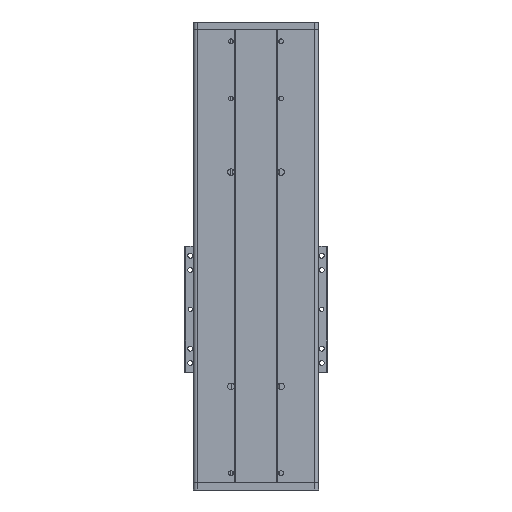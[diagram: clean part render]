
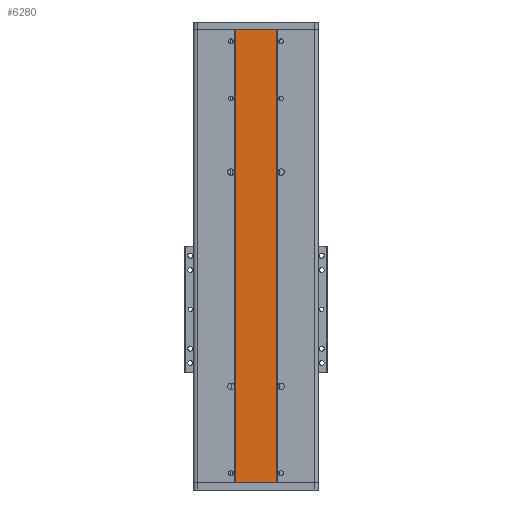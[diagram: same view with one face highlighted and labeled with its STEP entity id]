
A CAD part, front view. The second image highlights one B-rep face of the part: STEP entity #6280.
In plain terms, the highlighted planar face has unit normal (0, -1, 0).
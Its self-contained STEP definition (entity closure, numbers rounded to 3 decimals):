
#4207 = CARTESIAN_POINT ( 'NONE',  ( 58.27, -85.314, 635. ) ) ;
#4356 = CARTESIAN_POINT ( 'NONE',  ( 58.27, -85.314, -1245. ) ) ;
#6280 = ADVANCED_FACE ( 'NONE', ( #11978 ), #33856, .F. ) ;
#6749 = EDGE_CURVE ( 'NONE', #32931, #14445, #40188, .T. ) ;
#7474 = EDGE_CURVE ( 'NONE', #14445, #25032, #36184, .T. ) ;
#7497 = DIRECTION ( 'NONE',  ( 0., 0., 1. ) ) ;
#8635 = DIRECTION ( 'NONE',  ( 0., 1., 0. ) ) ;
#11347 = ORIENTED_EDGE ( 'NONE', *, *, #7474, .T. ) ;
#11978 = FACE_OUTER_BOUND ( 'NONE', #18731, .T. ) ;
#13543 = CARTESIAN_POINT ( 'NONE',  ( 0., -85.314, 0. ) ) ;
#14445 = VERTEX_POINT ( 'NONE', #4207 ) ;
#14585 = CARTESIAN_POINT ( 'NONE',  ( 1.27, -85.314, -1245. ) ) ;
#15776 = LINE ( 'NONE', #14585, #31628 ) ;
#18731 = EDGE_LOOP ( 'NONE', ( #28794, #11347, #26296, #19538 ) ) ;
#19538 = ORIENTED_EDGE ( 'NONE', *, *, #21689, .F. ) ;
#21184 = CARTESIAN_POINT ( 'NONE',  ( 1.27, -85.314, 635. ) ) ;
#21689 = EDGE_CURVE ( 'NONE', #32931, #38658, #29553, .T. ) ;
#23115 = DIRECTION ( 'NONE',  ( -1., 0., 0. ) ) ;
#24998 = CARTESIAN_POINT ( 'NONE',  ( 1.27, -85.314, 635. ) ) ;
#25032 = VERTEX_POINT ( 'NONE', #24998 ) ;
#26296 = ORIENTED_EDGE ( 'NONE', *, *, #27931, .F. ) ;
#26818 = VECTOR ( 'NONE', #36960, 1000. ) ;
#27931 = EDGE_CURVE ( 'NONE', #38658, #25032, #15776, .T. ) ;
#28366 = CARTESIAN_POINT ( 'NONE',  ( 1.27, -85.314, 0. ) ) ;
#28794 = ORIENTED_EDGE ( 'NONE', *, *, #6749, .T. ) ;
#29553 = LINE ( 'NONE', #13543, #36968 ) ;
#30834 = DIRECTION ( 'NONE',  ( 0., 0., 1. ) ) ;
#31013 = AXIS2_PLACEMENT_3D ( 'NONE', #40243, #8635, #30834 ) ;
#31628 = VECTOR ( 'NONE', #39929, 1000. ) ;
#32931 = VERTEX_POINT ( 'NONE', #33844 ) ;
#33844 = CARTESIAN_POINT ( 'NONE',  ( 58.27, -85.314, 0. ) ) ;
#33856 = PLANE ( 'NONE',  #31013 ) ;
#36184 = LINE ( 'NONE', #21184, #26818 ) ;
#36960 = DIRECTION ( 'NONE',  ( -1., 0., 0. ) ) ;
#36968 = VECTOR ( 'NONE', #23115, 1000. ) ;
#38658 = VERTEX_POINT ( 'NONE', #28366 ) ;
#39200 = VECTOR ( 'NONE', #7497, 1000. ) ;
#39929 = DIRECTION ( 'NONE',  ( 0., 0., 1. ) ) ;
#40188 = LINE ( 'NONE', #4356, #39200 ) ;
#40243 = CARTESIAN_POINT ( 'NONE',  ( 1.27, -85.314, -1245. ) ) ;
